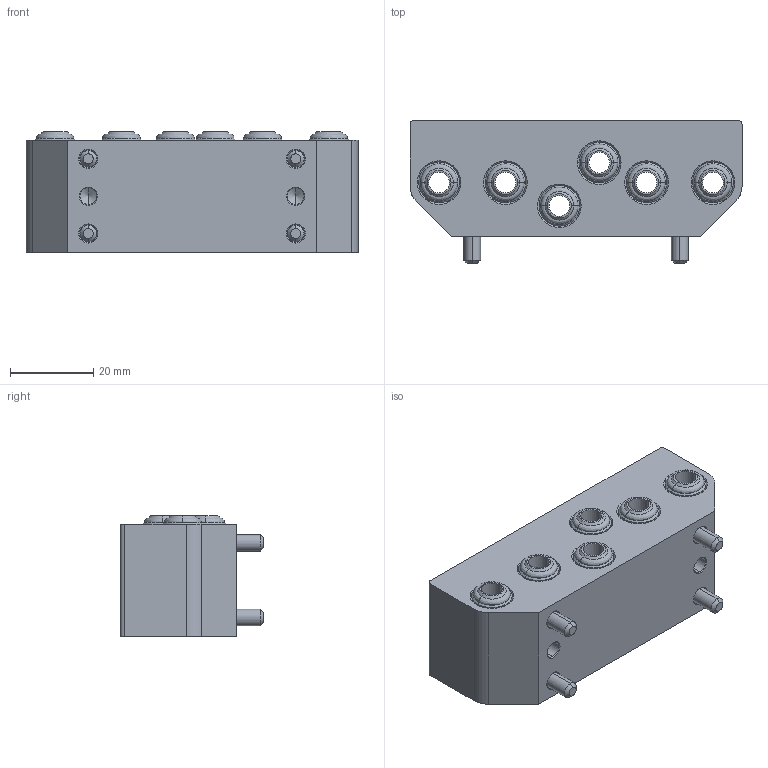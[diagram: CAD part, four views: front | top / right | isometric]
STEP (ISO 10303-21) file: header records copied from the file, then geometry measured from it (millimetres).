
FILE_DESCRIPTION (( 'STEP AP203' ), '1' );
FILE_NAME ('QCAM-06G18R-E.STEP', '2024-03-14T08:12:08', ( '微软用户' ), ( '微软中国' ), 'SwSTEP 2.0', 'SolidWorks 2018', '' );
FILE_SCHEMA (( 'CONFIG_CONTROL_DESIGN' ));
Length unit declared in the file: millimetre
Products named in the file (1): QCAM-06G18R-E
Bounding box: 80 x 34.5 x 29 mm (x, y, z)
Volume: 50590.2 mm3; surface area: 17689.2 mm2
Topology: 1 solids, 7 shells, 362 faces, 784 edges, 458 vertices
Faces by surface type: cone 132, cylinder 104, plane 94, bspline 32
Entity records: 10195 total; most frequent: CARTESIAN_POINT 2101, DIRECTION 1824, ORIENTED_EDGE 1552, EDGE_CURVE 776, AXIS2_PLACEMENT_3D 725, VERTEX_POINT 458, EDGE_LOOP 416, CIRCLE 394
